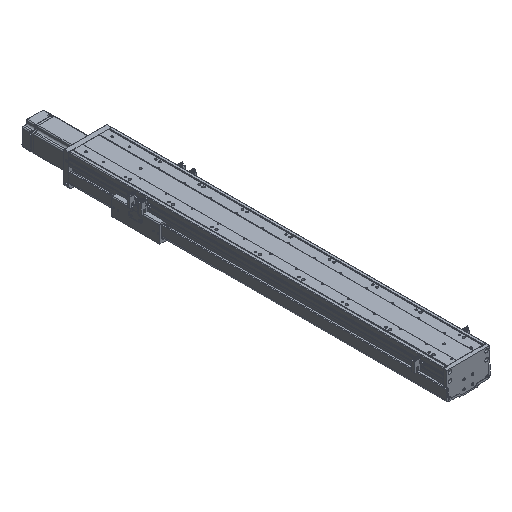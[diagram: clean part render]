
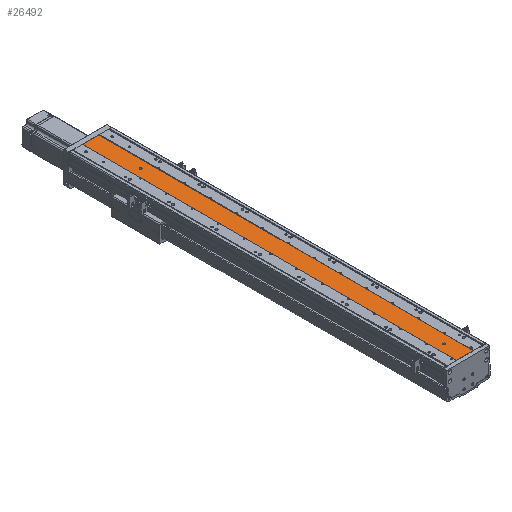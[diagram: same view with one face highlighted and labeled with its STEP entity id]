
A CAD part, isometric view. The second image highlights one B-rep face of the part: STEP entity #26492.
In plain terms, the highlighted planar face has unit normal (0, 0, 1).
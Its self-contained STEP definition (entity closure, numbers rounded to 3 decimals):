
#3250 = FACE_BOUND ( 'NONE', #44281, .T. ) ;
#3278 = FACE_BOUND ( 'NONE', #44255, .T. ) ;
#3280 = FACE_OUTER_BOUND ( 'NONE', #44287, .T. ) ;
#3992 = DIRECTION ( 'NONE',  ( 0., 0., -1. ) ) ;
#4044 = CARTESIAN_POINT ( 'NONE',  ( -10626.079, 747., -17040.86 ) ) ;
#4243 = DIRECTION ( 'NONE',  ( -1., 0., 0. ) ) ;
#4642 = CARTESIAN_POINT ( 'NONE',  ( -10626.079, 47., -17040.86 ) ) ;
#4676 = DIRECTION ( 'NONE',  ( 0., 0., -1. ) ) ;
#4677 = DIRECTION ( 'NONE',  ( -1., 0., 0. ) ) ;
#5113 = CARTESIAN_POINT ( 'NONE',  ( -10623.579, 47., -17040.86 ) ) ;
#5129 = CARTESIAN_POINT ( 'NONE',  ( -10623.579, 747., -17040.86 ) ) ;
#5142 = CARTESIAN_POINT ( 'NONE',  ( -10628.579, 47., -17040.86 ) ) ;
#12349 = VECTOR ( 'NONE', #19428, 1000. ) ;
#12351 = LINE ( 'NONE', #19447, #12349 ) ;
#12366 = LINE ( 'NONE', #19503, #12385 ) ;
#12374 = LINE ( 'NONE', #19518, #12378 ) ;
#12378 = VECTOR ( 'NONE', #19511, 1000. ) ;
#12385 = VECTOR ( 'NONE', #19530, 1000. ) ;
#12394 = CIRCLE ( 'NONE', #33417, 2.5 ) ;
#12436 = LINE ( 'NONE', #19559, #12437 ) ;
#12437 = VECTOR ( 'NONE', #19561, 1000. ) ;
#12446 = CIRCLE ( 'NONE', #33424, 2.5 ) ;
#13024 = VERTEX_POINT ( 'NONE', #5113 ) ;
#13049 = VERTEX_POINT ( 'NONE', #5129 ) ;
#13053 = VERTEX_POINT ( 'NONE', #5142 ) ;
#14462 = ORIENTED_EDGE ( 'NONE', *, *, #29592, .F. ) ;
#14576 = ORIENTED_EDGE ( 'NONE', *, *, #29570, .F. ) ;
#14738 = ORIENTED_EDGE ( 'NONE', *, *, #29564, .T. ) ;
#14754 = ORIENTED_EDGE ( 'NONE', *, *, #23379, .T. ) ;
#14794 = ORIENTED_EDGE ( 'NONE', *, *, #29511, .T. ) ;
#18307 = CARTESIAN_POINT ( 'NONE',  ( -10628.579, 747., -17040.86 ) ) ;
#19428 = DIRECTION ( 'NONE',  ( 1., 0., 0. ) ) ;
#19447 = CARTESIAN_POINT ( 'NONE',  ( -10645.079, 0., -17040.86 ) ) ;
#19497 = DIRECTION ( 'NONE',  ( 0., 0., -1. ) ) ;
#19503 = CARTESIAN_POINT ( 'NONE',  ( -10645.079, 862., -17040.86 ) ) ;
#19506 = CARTESIAN_POINT ( 'NONE',  ( -10626.079, 47., -17040.86 ) ) ;
#19511 = DIRECTION ( 'NONE',  ( 1., 0., 0. ) ) ;
#19518 = CARTESIAN_POINT ( 'NONE',  ( -10645.079, 862., -17040.86 ) ) ;
#19522 = DIRECTION ( 'NONE',  ( -1., 0., 0. ) ) ;
#19530 = DIRECTION ( 'NONE',  ( 0., -1., 0. ) ) ;
#19559 = CARTESIAN_POINT ( 'NONE',  ( -10607.079, 862., -17040.86 ) ) ;
#19561 = DIRECTION ( 'NONE',  ( 0., -1., 0. ) ) ;
#19583 = DIRECTION ( 'NONE',  ( 0., 0., -1. ) ) ;
#19588 = CARTESIAN_POINT ( 'NONE',  ( -10626.079, 747., -17040.86 ) ) ;
#19611 = DIRECTION ( 'NONE',  ( -1., 0., 0. ) ) ;
#19935 = ORIENTED_EDGE ( 'NONE', *, *, #29617, .T. ) ;
#19941 = ORIENTED_EDGE ( 'NONE', *, *, #23295, .T. ) ;
#19983 = ORIENTED_EDGE ( 'NONE', *, *, #29568, .T. ) ;
#23295 = EDGE_CURVE ( 'NONE', #13049, #25983, #32186, .T. ) ;
#23379 = EDGE_CURVE ( 'NONE', #13024, #13053, #32314, .T. ) ;
#25983 = VERTEX_POINT ( 'NONE', #18307 ) ;
#26492 = ADVANCED_FACE ( 'NONE', ( #3278, #3250, #3280 ), #35015, .F. ) ;
#29511 = EDGE_CURVE ( 'NONE', #35731, #35772, #12351, .T. ) ;
#29564 = EDGE_CURVE ( 'NONE', #35762, #35731, #12366, .T. ) ;
#29568 = EDGE_CURVE ( 'NONE', #13053, #13024, #12394, .T. ) ;
#29570 = EDGE_CURVE ( 'NONE', #35762, #35737, #12374, .T. ) ;
#29592 = EDGE_CURVE ( 'NONE', #35737, #35772, #12436, .T. ) ;
#29617 = EDGE_CURVE ( 'NONE', #25983, #13049, #12446, .T. ) ;
#32186 = CIRCLE ( 'NONE', #47366, 2.5 ) ;
#32314 = CIRCLE ( 'NONE', #47449, 2.5 ) ;
#33104 = AXIS2_PLACEMENT_3D ( 'NONE', #35016, #35004, #34996 ) ;
#33417 = AXIS2_PLACEMENT_3D ( 'NONE', #19506, #19497, #19522 ) ;
#33424 = AXIS2_PLACEMENT_3D ( 'NONE', #19588, #19583, #19611 ) ;
#34996 = DIRECTION ( 'NONE',  ( -1., 0., 0. ) ) ;
#35004 = DIRECTION ( 'NONE',  ( 0., 0., -1. ) ) ;
#35015 = PLANE ( 'NONE',  #33104 ) ;
#35016 = CARTESIAN_POINT ( 'NONE',  ( -10645.079, 862., -17040.86 ) ) ;
#35731 = VERTEX_POINT ( 'NONE', #36645 ) ;
#35737 = VERTEX_POINT ( 'NONE', #36687 ) ;
#35762 = VERTEX_POINT ( 'NONE', #36615 ) ;
#35772 = VERTEX_POINT ( 'NONE', #36665 ) ;
#36615 = CARTESIAN_POINT ( 'NONE',  ( -10645.079, 862., -17040.86 ) ) ;
#36645 = CARTESIAN_POINT ( 'NONE',  ( -10645.079, 0., -17040.86 ) ) ;
#36665 = CARTESIAN_POINT ( 'NONE',  ( -10607.079, 0., -17040.86 ) ) ;
#36687 = CARTESIAN_POINT ( 'NONE',  ( -10607.079, 862., -17040.86 ) ) ;
#44255 = EDGE_LOOP ( 'NONE', ( #19941, #19935 ) ) ;
#44281 = EDGE_LOOP ( 'NONE', ( #14754, #19983 ) ) ;
#44287 = EDGE_LOOP ( 'NONE', ( #14794, #14462, #14576, #14738 ) ) ;
#47366 = AXIS2_PLACEMENT_3D ( 'NONE', #4044, #3992, #4243 ) ;
#47449 = AXIS2_PLACEMENT_3D ( 'NONE', #4642, #4676, #4677 ) ;
